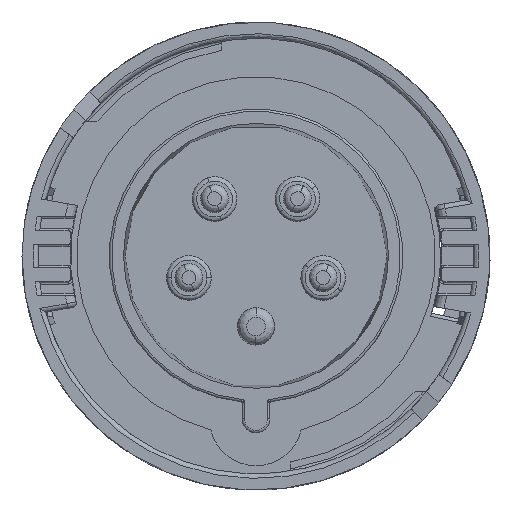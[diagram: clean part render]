
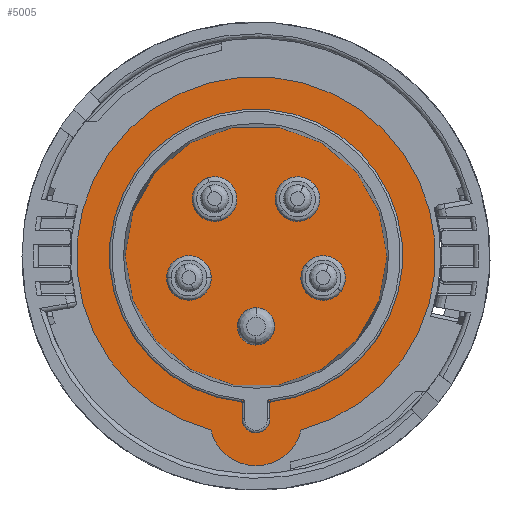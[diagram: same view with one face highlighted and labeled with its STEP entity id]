
A CAD part, top view. The second image highlights one B-rep face of the part: STEP entity #5005.
In plain terms, the highlighted planar face has unit normal (0, 0, 1).
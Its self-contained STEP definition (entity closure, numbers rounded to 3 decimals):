
#995=PLANE('',#17002);
#5005=ADVANCED_FACE('',(#5551),#995,.T.);
#5551=FACE_OUTER_BOUND('',#6079,.T.);
#6079=EDGE_LOOP('',(#10900,#10901));
#7671=CIRCLE('',#17000,10.);
#7672=CIRCLE('',#17001,38.55);
#10900=ORIENTED_EDGE('',*,*,#14984,.T.);
#10901=ORIENTED_EDGE('',*,*,#14985,.T.);
#12723=VERTEX_POINT('',#46949);
#12724=VERTEX_POINT('',#46950);
#14984=EDGE_CURVE('',#12723,#12724,#7671,.T.);
#14985=EDGE_CURVE('',#12724,#12723,#7672,.T.);
#17000=AXIS2_PLACEMENT_3D('',#46948,#19507,#19508);
#17001=AXIS2_PLACEMENT_3D('',#46951,#19509,#19510);
#17002=AXIS2_PLACEMENT_3D('',#46952,#19511,#19512);
#19507=DIRECTION('',(0.,0.,1.));
#19508=DIRECTION('',(1.,0.,0.));
#19509=DIRECTION('',(0.,0.,1.));
#19510=DIRECTION('',(1.,0.,0.));
#19511=DIRECTION('',(0.,0.,1.));
#19512=DIRECTION('',(-1.,0.,0.));
#46948=CARTESIAN_POINT('',(0.,-35.,-42.2));
#46949=CARTESIAN_POINT('',(-9.732,-37.301,-42.2));
#46950=CARTESIAN_POINT('',(9.732,-37.301,-42.2));
#46951=CARTESIAN_POINT('',(0.,0.,-42.2));
#46952=CARTESIAN_POINT('',(-46.26,-53.355,-42.2));
